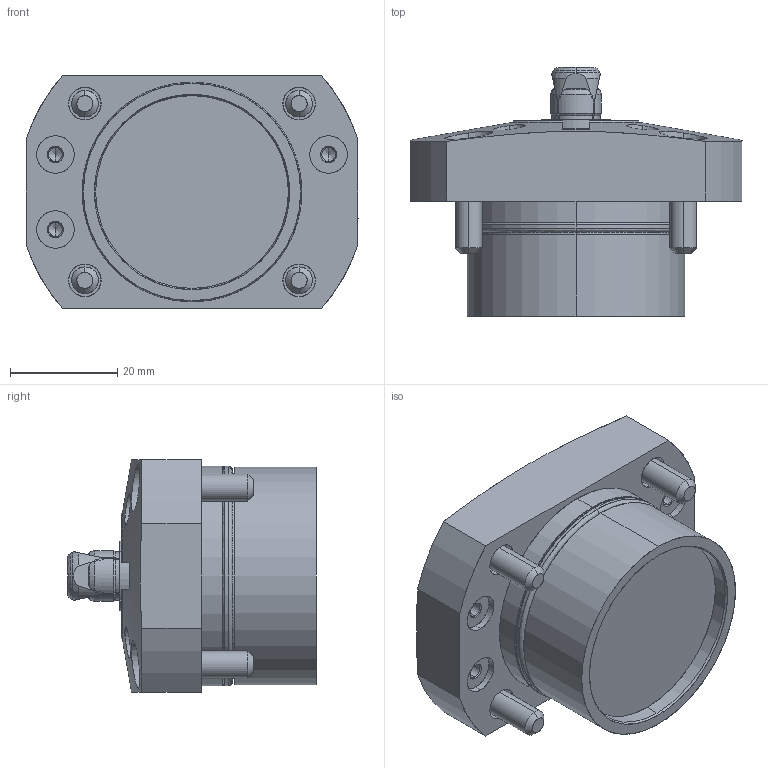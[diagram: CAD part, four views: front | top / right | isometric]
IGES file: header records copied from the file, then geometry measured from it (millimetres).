
Start section: SolidWorks IGES file using analytic representation for surfaces
Global section: file name: L:\電子カタログ-3Ｄ\SFH\ｱｾﾝﾌﾞﾘ\SFH2100.IGS; native system: SolidWorks 2010; preprocessor: SolidWorks 2010; author: D214; date: 101104.081051; units: millimetre
Bounding box: 62 x 46.5 x 43.5 mm (x, y, z)
Surface area: 21109 mm2 (no closed solid volume)
Topology: 0 solids, 0 shells, 486 faces, 6359 edges, 6335 vertices
Faces by surface type: revolution 278, bspline 208
